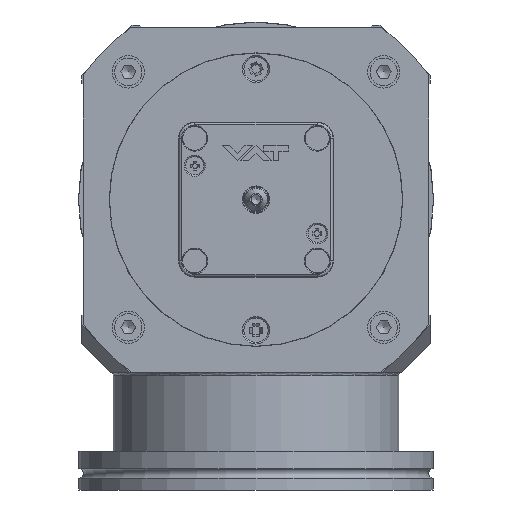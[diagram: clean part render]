
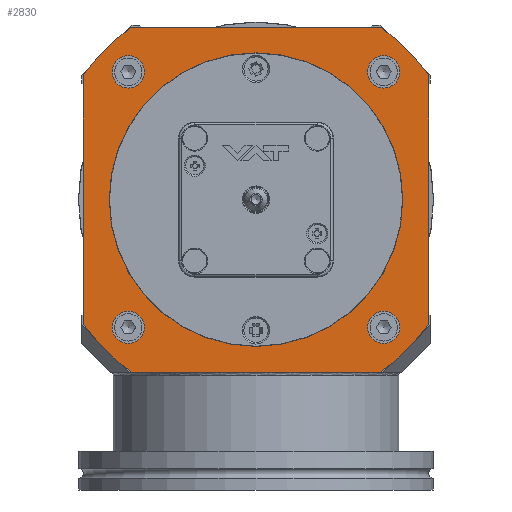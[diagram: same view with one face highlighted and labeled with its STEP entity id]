
A CAD part, front view. The second image highlights one B-rep face of the part: STEP entity #2830.
In plain terms, the highlighted planar face has unit normal (0, -1, 0) as drawn and (1, 0, 0) by its records, which use the part's own axes.
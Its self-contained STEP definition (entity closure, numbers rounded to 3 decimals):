
#2170=FACE_BOUND('',#4240,.T.);
#2171=FACE_BOUND('',#4241,.T.);
#2172=FACE_BOUND('',#4242,.T.);
#2173=FACE_BOUND('',#4243,.T.);
#2174=FACE_BOUND('',#4244,.T.);
#2175=FACE_BOUND('',#4245,.T.);
#2830=ADVANCED_FACE('',(#2170,#2171,#2172,#2173,#2174,#2175),#3239,.T.);
#3239=PLANE('',#11696);
#4240=EDGE_LOOP('',(#7941));
#4241=EDGE_LOOP('',(#7942));
#4242=EDGE_LOOP('',(#7943));
#4243=EDGE_LOOP('',(#7944));
#4244=EDGE_LOOP('',(#7945));
#4245=EDGE_LOOP('',(#7946,#7947,#7948,#7949,#7950,#7951,#7952,#7953));
#5145=LINE('',#17765,#5875);
#5146=LINE('',#17766,#5876);
#5147=LINE('',#17770,#5877);
#5148=LINE('',#17774,#5878);
#5875=VECTOR('',#14054,1.);
#5876=VECTOR('',#14055,1.);
#5877=VECTOR('',#14058,1.);
#5878=VECTOR('',#14061,1.);
#7941=ORIENTED_EDGE('',*,*,#10320,.T.);
#7942=ORIENTED_EDGE('',*,*,#10321,.T.);
#7943=ORIENTED_EDGE('',*,*,#10322,.T.);
#7944=ORIENTED_EDGE('',*,*,#10323,.T.);
#7945=ORIENTED_EDGE('',*,*,#10324,.T.);
#7946=ORIENTED_EDGE('',*,*,#10315,.F.);
#7947=ORIENTED_EDGE('',*,*,#10325,.T.);
#7948=ORIENTED_EDGE('',*,*,#10317,.F.);
#7949=ORIENTED_EDGE('',*,*,#10326,.F.);
#7950=ORIENTED_EDGE('',*,*,#10327,.F.);
#7951=ORIENTED_EDGE('',*,*,#10328,.F.);
#7952=ORIENTED_EDGE('',*,*,#10329,.F.);
#7953=ORIENTED_EDGE('',*,*,#10330,.T.);
#9132=VERTEX_POINT('',#17744);
#9133=VERTEX_POINT('',#17746);
#9134=VERTEX_POINT('',#17750);
#9135=VERTEX_POINT('',#17751);
#9136=VERTEX_POINT('',#17756);
#9137=VERTEX_POINT('',#17758);
#9138=VERTEX_POINT('',#17760);
#9139=VERTEX_POINT('',#17762);
#9140=VERTEX_POINT('',#17764);
#9141=VERTEX_POINT('',#17767);
#9142=VERTEX_POINT('',#17769);
#9143=VERTEX_POINT('',#17771);
#9144=VERTEX_POINT('',#17773);
#10315=EDGE_CURVE('',#9132,#9133,#10845,.T.);
#10317=EDGE_CURVE('',#9134,#9135,#10846,.T.);
#10320=EDGE_CURVE('',#9136,#9136,#10847,.T.);
#10321=EDGE_CURVE('',#9137,#9137,#10848,.T.);
#10322=EDGE_CURVE('',#9138,#9138,#10849,.T.);
#10323=EDGE_CURVE('',#9139,#9139,#10850,.T.);
#10324=EDGE_CURVE('',#9140,#9140,#10851,.T.);
#10325=EDGE_CURVE('',#9132,#9135,#5145,.T.);
#10326=EDGE_CURVE('',#9141,#9134,#5146,.T.);
#10327=EDGE_CURVE('',#9142,#9141,#10852,.T.);
#10328=EDGE_CURVE('',#9143,#9142,#5147,.T.);
#10329=EDGE_CURVE('',#9144,#9143,#10853,.T.);
#10330=EDGE_CURVE('',#9144,#9133,#5148,.T.);
#10845=CIRCLE('',#11685,66.);
#10846=CIRCLE('',#11687,66.);
#10847=CIRCLE('',#11689,5.);
#10848=CIRCLE('',#11690,5.);
#10849=CIRCLE('',#11691,5.);
#10850=CIRCLE('',#11692,5.);
#10851=CIRCLE('',#11693,45.5);
#10852=CIRCLE('',#11694,66.);
#10853=CIRCLE('',#11695,66.);
#11685=AXIS2_PLACEMENT_3D('',#17745,#14033,#14034);
#11687=AXIS2_PLACEMENT_3D('',#17749,#14038,#14039);
#11689=AXIS2_PLACEMENT_3D('',#17755,#14044,#14045);
#11690=AXIS2_PLACEMENT_3D('',#17757,#14046,#14047);
#11691=AXIS2_PLACEMENT_3D('',#17759,#14048,#14049);
#11692=AXIS2_PLACEMENT_3D('',#17761,#14050,#14051);
#11693=AXIS2_PLACEMENT_3D('',#17763,#14052,#14053);
#11694=AXIS2_PLACEMENT_3D('',#17768,#14056,#14057);
#11695=AXIS2_PLACEMENT_3D('',#17772,#14059,#14060);
#11696=AXIS2_PLACEMENT_3D('',#17775,#14062,#14063);
#14033=DIRECTION('',(-1.,0.,0.));
#14034=DIRECTION('',(0.,0.,1.));
#14038=DIRECTION('',(-1.,0.,0.));
#14039=DIRECTION('',(0.,0.,1.));
#14044=DIRECTION('',(-1.,0.,0.));
#14045=DIRECTION('',(0.,0.,1.));
#14046=DIRECTION('',(-1.,0.,0.));
#14047=DIRECTION('',(0.,0.,1.));
#14048=DIRECTION('',(-1.,0.,0.));
#14049=DIRECTION('',(0.,0.,1.));
#14050=DIRECTION('',(-1.,0.,0.));
#14051=DIRECTION('',(0.,0.,1.));
#14052=DIRECTION('',(-1.,0.,0.));
#14053=DIRECTION('',(0.,0.,1.));
#14054=DIRECTION('',(0.,0.,1.));
#14055=DIRECTION('',(0.,1.,0.));
#14056=DIRECTION('',(-1.,0.,0.));
#14057=DIRECTION('',(0.,0.,1.));
#14058=DIRECTION('',(0.,0.,1.));
#14059=DIRECTION('',(-1.,0.,0.));
#14060=DIRECTION('',(0.,0.,1.));
#14061=DIRECTION('',(0.,1.,0.));
#14062=DIRECTION('',(1.,0.,0.));
#14063=DIRECTION('',(0.,0.,-1.));
#17744=CARTESIAN_POINT('',(69.,53.5,-38.649));
#17745=CARTESIAN_POINT('',(69.,0.,0.));
#17746=CARTESIAN_POINT('',(69.,38.649,-53.5));
#17749=CARTESIAN_POINT('',(69.,0.,0.));
#17750=CARTESIAN_POINT('',(69.,38.649,53.5));
#17751=CARTESIAN_POINT('',(69.,53.5,38.649));
#17755=CARTESIAN_POINT('',(69.,-39.598,-39.598));
#17756=CARTESIAN_POINT('',(69.,-39.598,-34.598));
#17757=CARTESIAN_POINT('',(69.,39.598,-39.598));
#17758=CARTESIAN_POINT('',(69.,39.598,-34.598));
#17759=CARTESIAN_POINT('',(69.,39.598,39.598));
#17760=CARTESIAN_POINT('',(69.,39.598,44.598));
#17761=CARTESIAN_POINT('',(69.,-39.598,39.598));
#17762=CARTESIAN_POINT('',(69.,-39.598,44.598));
#17763=CARTESIAN_POINT('',(69.,0.,0.));
#17764=CARTESIAN_POINT('',(69.,0.,45.5));
#17765=CARTESIAN_POINT('',(69.,53.5,-50.));
#17766=CARTESIAN_POINT('',(69.,-50.,53.5));
#17767=CARTESIAN_POINT('',(69.,-38.649,53.5));
#17768=CARTESIAN_POINT('',(69.,0.,0.));
#17769=CARTESIAN_POINT('',(69.,-53.5,38.649));
#17770=CARTESIAN_POINT('',(69.,-53.5,-50.));
#17771=CARTESIAN_POINT('',(69.,-53.5,-38.649));
#17772=CARTESIAN_POINT('',(69.,0.,0.));
#17773=CARTESIAN_POINT('',(69.,-38.649,-53.5));
#17774=CARTESIAN_POINT('',(69.,-50.,-53.5));
#17775=CARTESIAN_POINT('',(69.,66.,0.));
